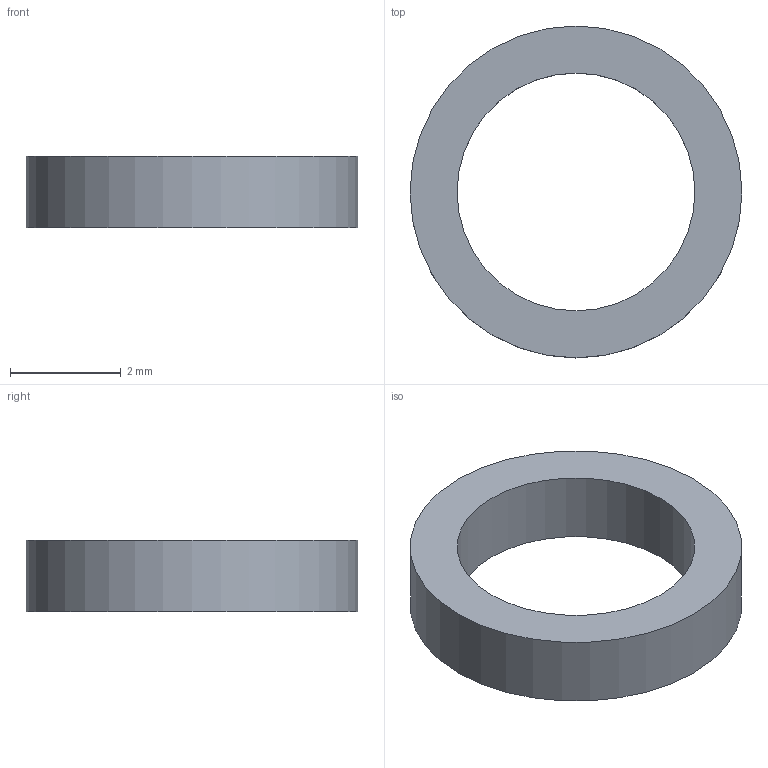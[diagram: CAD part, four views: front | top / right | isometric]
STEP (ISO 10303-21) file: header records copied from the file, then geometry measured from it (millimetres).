
FILE_DESCRIPTION(('FreeCAD Model'),'2;1');
FILE_NAME('Open CASCADE Shape Model','2026-09-19T17:54:12',('FreeCAD'),( 'FreeCAD'),'Open CASCADE STEP processor 7.8','FreeCAD','Unknown');
FILE_SCHEMA(('AUTOMOTIVE_DESIGN { 1 0 10303 214 1 1 1 1 }'));
Length unit declared in the file: millimetre
Products named in the file (1): Open CASCADE STEP translator 7.8 23
Bounding box: 6 x 6 x 1.3 mm (x, y, z)
Volume: 17.9 mm3; surface area: 69.6 mm2
Topology: 1 solids, 1 shells, 4 faces, 6 edges, 4 vertices
Faces by surface type: cylinder 2, plane 2
Full cylindrical faces by diameter (mm): 4.3 x1, 6 x1
Entity records: 108 total; most frequent: DIRECTION 20, CARTESIAN_POINT 15, ORIENTED_EDGE 12, AXIS2_PLACEMENT_3D 9, FACE_BOUND 6, EDGE_LOOP 6, EDGE_CURVE 6, ADVANCED_FACE 4
